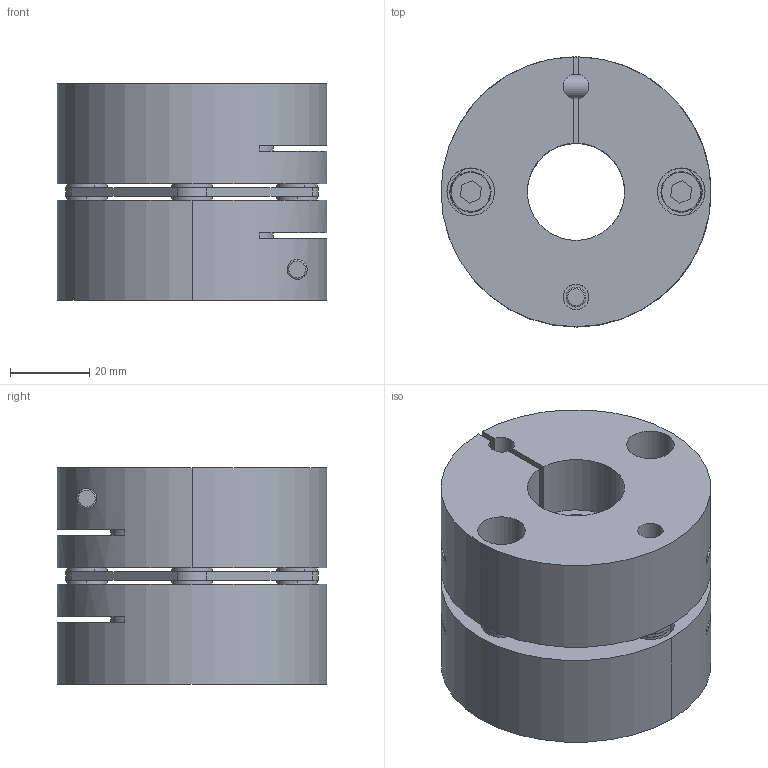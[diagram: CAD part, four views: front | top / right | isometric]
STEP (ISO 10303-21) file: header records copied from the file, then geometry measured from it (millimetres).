
FILE_DESCRIPTION (( 'STEP AP214' ), '1' );
FILE_NAME ('LC-A-060SA-24.5B-24.5B（C型）.STEP', '2019-09-19T02:10:45', ( 'admin' ), ( 'Microsoft' ), 'SwSTEP 2.0', 'SolidWorks 2016', '' );
FILE_SCHEMA (( 'AUTOMOTIVE_DESIGN' ));
Length unit declared in the file: millimetre
Products named in the file (1): LC-A-060SA-24.5B-24.5B（C型）
Bounding box: 68 x 68 x 54.5 mm (x, y, z)
Volume: 144491.3 mm3; surface area: 48089.1 mm2
Topology: 17 solids, 17 shells, 278 faces, 650 edges, 420 vertices
Faces by surface type: cylinder 132, plane 110, torus 24, cone 12
Entity records: 11823 total; most frequent: CARTESIAN_POINT 1869, DIRECTION 1516, ORIENTED_EDGE 1300, EDGE_CURVE 650, AXIS2_PLACEMENT_3D 603, VERTEX_POINT 420, EDGE_LOOP 350, CIRCLE 324
